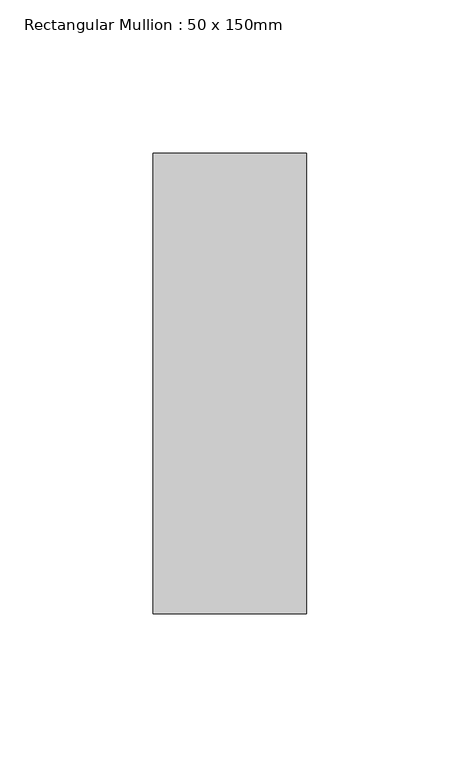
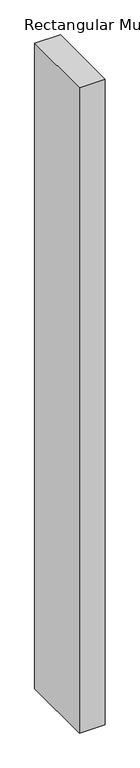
"""IFC4 building model written with IfcOpenShell, lengths in millimetres: member geometry, Rectangular Mullion : 50 x 150mm."""

from ifc_helpers import new_model, si_unit, frame, origin, place, context, project, spatial, polyline, outline, extrude, source, transform, mapped, element, save


def rectangular_mullion_50_x_150mm_f642386c(model_context):
    return source(origin(), model_context, "Body", "SweptSolid", [
        extrude(outline(polyline([(25.0, 75.0), (25.0, -75.0), (-25.0, -75.0), (-25.0, 75.0), (25.0, 75.0)])), frame((0.0, 0.0, -1322.2344132), z_axis=(0.0, 0.0, 1.0), x_axis=(1.0, 0.0, 0.0)), (0.0, 0.0, 1.0), 1322.2344132),
    ])


if __name__ == "__main__":
    model = new_model("IFC4")
    model_context = context("Model", 3, world=origin())
    ifc_project = project(units=[si_unit("LENGTHUNIT", "METRE", prefix="MILLI")], contexts=[model_context])
    site = spatial("IfcSite", under=ifc_project)
    building = spatial("IfcBuilding", under=site)
    placement = place(None, origin())
    rectangular_mullion_50_x_150mm_shape = rectangular_mullion_50_x_150mm_f642386c(model_context)
    element("IfcMember", 1, ObjectType="Rectangular Mullion : 50 x 150mm", at=placement, inside=building, context=model_context, shape_type="MappedRepresentation", body=[
        mapped(rectangular_mullion_50_x_150mm_shape, transform((0.0, 0.0, 0.0), x_axis=(1.0, 0.0, 0.0), y_axis=(0.0, 1.0, 0.0), z_axis=(0.0, 0.0, 1.0))),
    ])
    save(model, "model.ifc")
